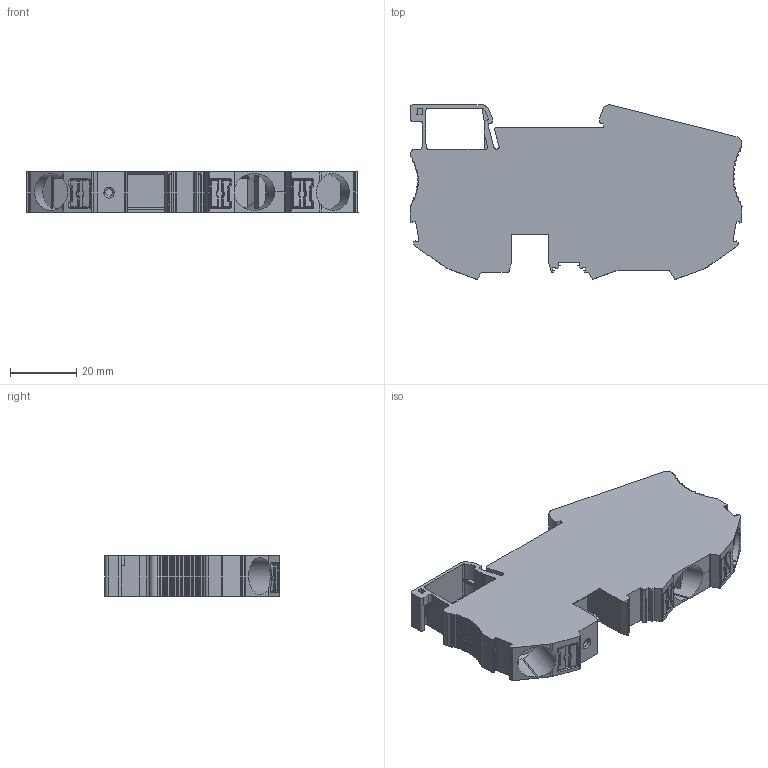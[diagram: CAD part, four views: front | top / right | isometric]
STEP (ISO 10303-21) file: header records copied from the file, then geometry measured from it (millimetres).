
FILE_DESCRIPTION((''),'2;1');
FILE_NAME('UPT-16-1-2_ASSY','2024-03-29T16:27:44',('Administrator'),(''),'CREO PARAMETRIC BY PTC INC, 2018050','CREO PARAMETRIC BY PTC INC, 2018050','');
FILE_SCHEMA(('CONFIG_CONTROL_DESIGN'));
Length unit declared in the file: millimetre
Products named in the file (1): UPT-16-1-2_ASSY
Bounding box: 100.24 x 52.65 x 12.15 mm (x, y, z)
Volume: 44286.7 mm3; surface area: 16222.8 mm2
Topology: 1 solids, 7 shells, 922 faces, 2621 edges, 1658 vertices
Faces by surface type: cylinder 426, plane 385, sphere 45, cone 42, torus 14, bspline 6, extrusion 4
Entity records: 30605 total; most frequent: CARTESIAN_POINT 6801, ORIENTED_EDGE 5152, DIRECTION 4894, EDGE_CURVE 2576, AXIS2_PLACEMENT_3D 1703, VERTEX_POINT 1658, VECTOR 1488, LINE 1484
